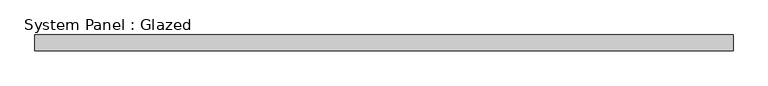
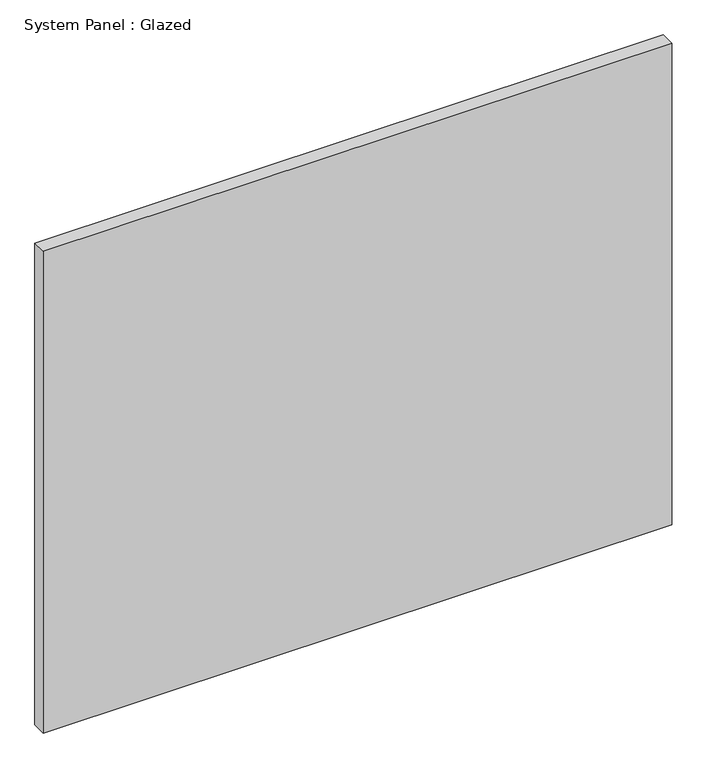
"""IFC4 building model written with IfcOpenShell, lengths in millimetres: plate geometry, System Panel : Glazed."""

from ifc_helpers import new_model, si_unit, origin, origin_with_axes, place, context, project, spatial, polyline, outline, extrude, source, transform, mapped, element, save


def system_panel_glazed_1f22a503(model_context):
    return source(origin(), model_context, "Body", "SweptSolid", [
        extrude(outline(polyline([(556.5841229, 24.5), (-556.5841229, 24.5), (-556.5841229, 49.5), (556.5841229, 49.5), (556.5841229, 24.5)])), origin_with_axes(), (0.0, 0.0, 1.0), 902.3119055),
    ])


if __name__ == "__main__":
    model = new_model("IFC4")
    model_context = context("Model", 3, world=origin())
    ifc_project = project(units=[si_unit("LENGTHUNIT", "METRE", prefix="MILLI")], contexts=[model_context])
    site = spatial("IfcSite", under=ifc_project)
    building = spatial("IfcBuilding", under=site)
    placement = place(None, origin())
    system_panel_glazed_shape = system_panel_glazed_1f22a503(model_context)
    element("IfcPlate", 1, ObjectType="System Panel : Glazed", at=placement, inside=building, context=model_context, shape_type="MappedRepresentation", body=[
        mapped(system_panel_glazed_shape, transform((0.0, 0.0, 0.0), x_axis=(1.0, 0.0, 0.0), y_axis=(0.0, 1.0, 0.0), z_axis=(0.0, 0.0, 1.0))),
    ])
    save(model, "model.ifc")
